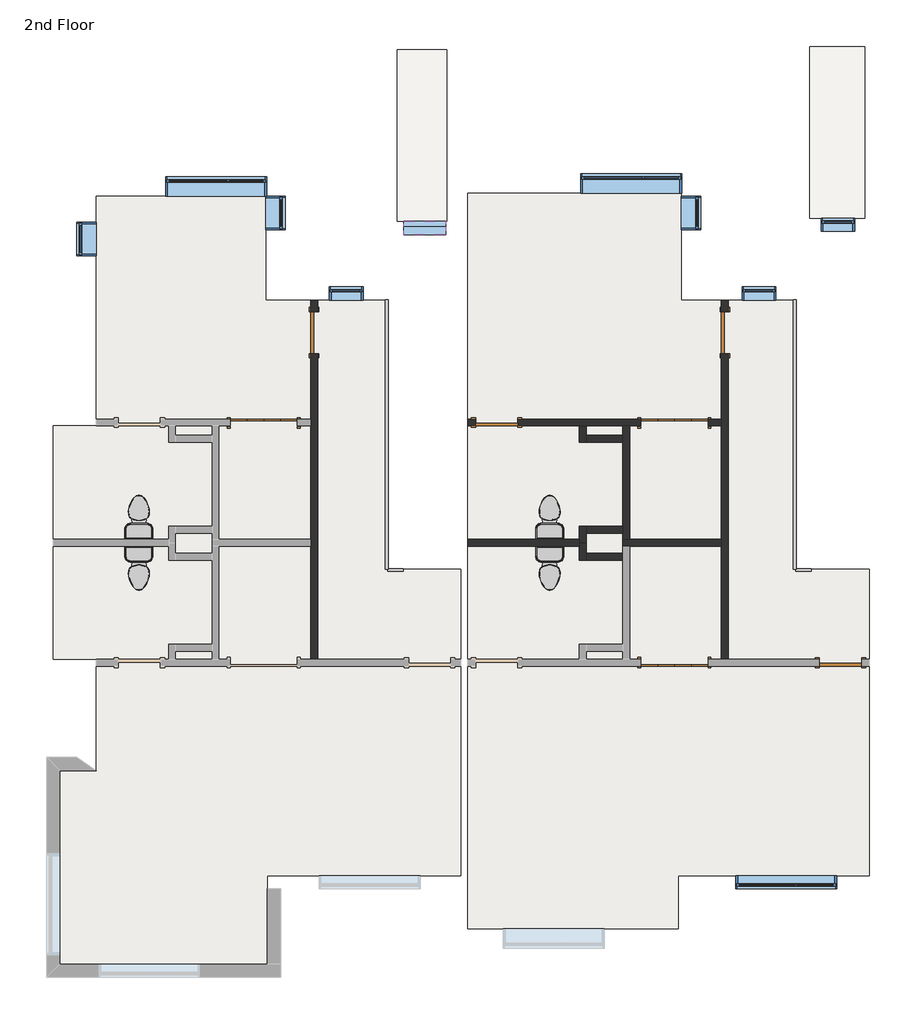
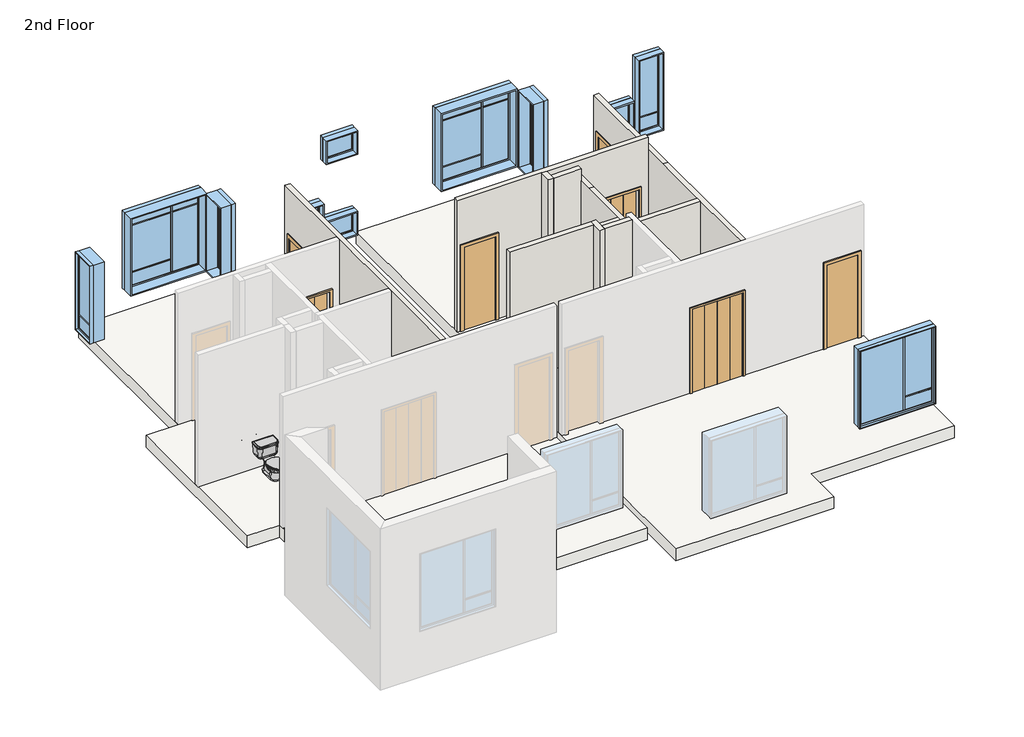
# One storey, part 2 of 2: 12 walls, 12 windows, 7 doors, 4 flow terminals, 2 railings, 2 roofs, 2 slabs.
"""IFC4 building model written with IfcOpenShell, lengths in millimetres."""

from ifc_helpers import new_model, si_unit, frame, origin, place, context, project, spatial, polyline, outline, extrude, faceted_brep, transform, mapped, element, save
from components import bifold_4_panel_87549022, bifold_4_panel_c9060b8c, door_f8acb57e, door_702a1063, toilet_domestic_3d_toilet_domestic_3d_3687f172, toilet_domestic_3d_toilet_domestic_3d_183bbd19, toilet_domestic_3d_toilet_domestic_3d_d5d88465, toilet_domestic_3d_toilet_domestic_3d_5530cc89, floor_railing_1_846517ea, floor_railing_1_7126c992, condo_apartment_window1_condo_apartment_window1_2f492663, condo_apartment_window2_condo_apartment_window2_cbcd33dc, condo_apartment_window3_condo_apartment_window3_4697ba99, condo_apartment_window3_condo_apartment_window3_b97e7785, condo_apartment_window3_condo_apartment_window3_e6ba8bfb, condo_apartment_window5_condo_apartment_window5_b48a20a4

model = new_model("IFC4")

# Units and contexts
model_context = context("Model", 3, world=origin())
ifc_project = project(units=[si_unit("LENGTHUNIT", "METRE", prefix="MILLI")], contexts=[model_context])

# Site, building, storey
site = spatial("IfcSite", under=ifc_project)
building = spatial("IfcBuilding", under=site)
storey = spatial("IfcBuildingStorey", under=building, Name="2nd Floor", Elevation=3352.8)

# Doors
placement = place(None, origin())
bifold_4_panel_shape = bifold_4_panel_87549022(model_context)
element("IfcDoor", 1, ObjectType="Bifold - 4 panel : 48\" x  84\"", at=placement, inside=storey, context=model_context, shape_type="MappedRepresentation", body=[
    mapped(bifold_4_panel_shape, transform((18.6480231, 54569.10012, 3352.8), x_axis=(1.0, 0.0, 0.0), y_axis=(0.0, 1.0, 0.0), z_axis=(0.0, 0.0, 1.0))),
])
element("IfcDoor", 2, ObjectType="Bifold - 4 panel : 48\" x  84\"", at=placement, inside=storey, context=model_context, shape_type="MappedRepresentation", body=[
    mapped(bifold_4_panel_shape, transform((-7422.1019769, 54569.10012, 3352.8), x_axis=(1.0, 0.0, 0.0), y_axis=(0.0, 1.0, 0.0), z_axis=(0.0, 0.0, 1.0))),
])
bifold_4_panel_2_shape = bifold_4_panel_c9060b8c(model_context)
element("IfcDoor", 3, ObjectType="Bifold - 4 panel : 48\" x  84\"", at=placement, inside=storey, context=model_context, shape_type="MappedRepresentation", body=[
    mapped(bifold_4_panel_2_shape, transform((18.6480231, 50216.974008, 3352.8), x_axis=(1.0, 0.0, 0.0), y_axis=(0.0, 1.0, 0.0), z_axis=(0.0, 0.0, 1.0))),
])
door_shape = door_f8acb57e(model_context)
element("IfcDoor", 4, ObjectType="Single-Flush : 30\" x 84\"", at=placement, inside=storey, context=model_context, shape_type="MappedRepresentation", body=[
    mapped(door_shape, transform((-3203.0622339, 54569.10012, 3352.8), x_axis=(-1.0, 0.0, 0.0), y_axis=(0.0, -1.0, 0.0), z_axis=(0.0, 0.0, 1.0))),
])
element("IfcDoor", 5, ObjectType="Single-Flush : 30\" x 84\"", at=placement, inside=storey, context=model_context, shape_type="MappedRepresentation", body=[
    mapped(door_shape, transform((933.0480231, 56197.736508, 3352.8), x_axis=(0.0, 1.0, 0.0), y_axis=(-1.0, 0.0, 0.0), z_axis=(0.0, 0.0, 1.0))),
])
element("IfcDoor", 6, ObjectType="Single-Flush : 30\" x 84\"", at=placement, inside=storey, context=model_context, shape_type="MappedRepresentation", body=[
    mapped(door_shape, transform((-6507.7019769, 56197.736508, 3352.8), x_axis=(0.0, 1.0, 0.0), y_axis=(-1.0, 0.0, 0.0), z_axis=(0.0, 0.0, 1.0))),
])
door_2_shape = door_702a1063(model_context)
element("IfcDoor", 7, ObjectType="Single-Flush : 30\" x 84\"", at=placement, inside=storey, context=model_context, shape_type="MappedRepresentation", body=[
    mapped(door_2_shape, transform((3026.6980231, 50216.974008, 3352.8), x_axis=(1.0, 0.0, 0.0), y_axis=(0.0, 1.0, 0.0), z_axis=(0.0, 0.0, 1.0))),
])

# Flow terminals
toilet_domestic_3d_toilet_domestic_3d_shape = toilet_domestic_3d_toilet_domestic_3d_3687f172(model_context)
toilet_domestic_3d_toilet_domestic_3d_2_shape = toilet_domestic_3d_toilet_domestic_3d_183bbd19(model_context)
element("IfcFlowTerminal", 8, ObjectType="Toilet-Domestic-3D : Toilet-Domestic-3D", at=placement, inside=storey, context=model_context, shape_type="MappedRepresentation", body=[
    mapped(toilet_domestic_3d_toilet_domestic_3d_shape, transform((-2241.2271793, 52949.2330913, 3352.8), x_axis=(-1.0, 0.0, 0.0), y_axis=(0.0, -1.0, 0.0), z_axis=(0.0, 0.0, 1.0))),
    mapped(toilet_domestic_3d_toilet_domestic_3d_2_shape, transform((-2241.2271793, 52949.2330913, 3352.8), x_axis=(-1.0, 0.0, 0.0), y_axis=(0.0, -1.0, 0.0), z_axis=(0.0, 0.0, 1.0))),
])
element("IfcFlowTerminal", 9, ObjectType="Toilet-Domestic-3D : Toilet-Domestic-3D", at=placement, inside=storey, context=model_context, shape_type="MappedRepresentation", body=[
    mapped(toilet_domestic_3d_toilet_domestic_3d_shape, transform((-9681.9771793, 52949.2330913, 3352.8), x_axis=(-1.0, 0.0, 0.0), y_axis=(0.0, -1.0, 0.0), z_axis=(0.0, 0.0, 1.0))),
    mapped(toilet_domestic_3d_toilet_domestic_3d_2_shape, transform((-9681.9771793, 52949.2330913, 3352.8), x_axis=(-1.0, 0.0, 0.0), y_axis=(0.0, -1.0, 0.0), z_axis=(0.0, 0.0, 1.0))),
])
toilet_domestic_3d_toilet_domestic_3d_3_shape = toilet_domestic_3d_toilet_domestic_3d_d5d88465(model_context)
toilet_domestic_3d_toilet_domestic_3d_4_shape = toilet_domestic_3d_toilet_domestic_3d_5530cc89(model_context)
element("IfcFlowTerminal", 10, ObjectType="Toilet-Domestic-3D : Toilet-Domestic-3D", at=placement, inside=storey, context=model_context, shape_type="MappedRepresentation", body=[
    mapped(toilet_domestic_3d_toilet_domestic_3d_3_shape, transform((-2241.2271793, 51836.8410366, 3352.8), x_axis=(-1.0, 0.0, 0.0), y_axis=(0.0, -1.0, 0.0), z_axis=(0.0, 0.0, 1.0))),
    mapped(toilet_domestic_3d_toilet_domestic_3d_4_shape, transform((-2241.2271793, 51836.8410366, 3352.8), x_axis=(-1.0, 0.0, 0.0), y_axis=(0.0, -1.0, 0.0), z_axis=(0.0, 0.0, 1.0))),
])
element("IfcFlowTerminal", 11, ObjectType="Toilet-Domestic-3D : Toilet-Domestic-3D", at=placement, inside=storey, context=model_context, shape_type="MappedRepresentation", body=[
    mapped(toilet_domestic_3d_toilet_domestic_3d_3_shape, transform((-9681.9771793, 51836.8410366, 3352.8), x_axis=(-1.0, 0.0, 0.0), y_axis=(0.0, -1.0, 0.0), z_axis=(0.0, 0.0, 1.0))),
    mapped(toilet_domestic_3d_toilet_domestic_3d_4_shape, transform((-9681.9771793, 51836.8410366, 3352.8), x_axis=(-1.0, 0.0, 0.0), y_axis=(0.0, -1.0, 0.0), z_axis=(0.0, 0.0, 1.0))),
])

# Railings
floor_railing_1_shape = floor_railing_1_846517ea(model_context)
element("IfcRailing", 12, ObjectType="Floor Railing 1", at=placement, inside=storey, context=model_context, shape_type="MappedRepresentation", body=[
    mapped(floor_railing_1_shape, transform((0.0, 0.0, 0.0), x_axis=(1.0, 0.0, 0.0), y_axis=(0.0, 1.0, 0.0), z_axis=(0.0, 0.0, 1.0))),
])
floor_railing_1_2_shape = floor_railing_1_7126c992(model_context)
element("IfcRailing", 13, ObjectType="Floor Railing 1", at=placement, inside=storey, context=model_context, shape_type="MappedRepresentation", body=[
    mapped(floor_railing_1_2_shape, transform((0.0, 0.0, 0.0), x_axis=(1.0, 0.0, 0.0), y_axis=(0.0, 1.0, 0.0), z_axis=(0.0, 0.0, 1.0))),
])

# Roofs
element("IfcRoof", 14, ObjectType="Generic - 12\"", at=placement, inside=storey, context=model_context, shape_type="SweptSolid", body=[
    extrude(outline(polyline([(58271.9489967, 1368.1790671), (61380.924008, 368.1790671), (61380.924008, 48.0), (58271.9489967, 1048.0), (58271.9489967, 1368.1790671)])), frame((2471.5505599, 0.0, 0.0), z_axis=(1.0, 0.0, 0.0), x_axis=(0.0, 1.0, 0.0)), (0.0, 0.0, 1.0), 997.0458242),
])
element("IfcRoof", 15, ObjectType="Generic - 12\"", at=placement, inside=storey, context=model_context, shape_type="SweptSolid", body=[
    extrude(outline(polyline([(58214.7989967, 1368.1790671), (61323.774008, 368.1790671), (61323.774008, 48.0), (58214.7989967, 1048.0), (58214.7989967, 1368.1790671)])), frame((-5003.7911158, 0.0, 0.0), z_axis=(1.0, 0.0, 0.0), x_axis=(0.0, 1.0, 0.0)), (0.0, 0.0, 1.0), 900.616382),
])

# Slabs
element("IfcSlab", 16, ObjectType="Generic - 12\"", at=placement, inside=storey, context=model_context, shape_type="SweptSolid", body=[
    extrude(outline(polyline([(-7386.2622339, 58665.924008), (-7386.2622339, 56788.286508), (-5175.7911158, 56788.286508), (-5175.7911158, 51911.486508), (-3850.7622339, 51911.486508), (-3850.7622339, 46362.5755538), (-7355.0497339, 46362.5755538), (-7355.0497339, 44758.736508), (-11113.8372339, 44758.736508), (-11113.8372339, 48264.349008), (-10457.0497339, 48264.349008), (-10457.0497339, 50278.886508), (-11231.3122339, 50278.886508), (-11231.3122339, 54507.18762), (-10457.0497339, 54507.18762), (-10457.0497339, 58665.924008), (-7386.2622339, 58665.924008)])), frame((0.0, 0.0, 3048.0), z_axis=(0.0, 0.0, 1.0), x_axis=(1.0, 0.0, 0.0)), (0.0, 0.0, 1.0), 304.8),
])
element("IfcSlab", 17, ObjectType="Generic - 12\"", at=placement, inside=storey, context=model_context, shape_type="SweptSolid", body=[
    extrude(outline(polyline([(146.8252661, 58723.449008), (146.8252661, 56788.286508), (2214.4316411, 56788.286508), (2214.4316411, 51911.486508), (3547.3980231, 51911.486508), (3547.3980231, 46362.5755538), (85.7002661, 46362.5755538), (85.7002661, 45398.061508), (-3726.9372339, 45398.061508), (-3726.9372339, 58723.449008), (146.8252661, 58723.449008)])), frame((0.0, 0.0, 3048.0), z_axis=(0.0, 0.0, 1.0), x_axis=(1.0, 0.0, 0.0)), (0.0, 0.0, 1.0), 304.8),
])

# Walls
element("IfcWall", 18, ObjectType="Interior - 4 7/8\" Partition (1-hr)", at=placement, inside=storey, context=model_context, shape_type="Brep", body=[
    faceted_brep([(871.1355231, 56788.286508, 3352.8), (871.1355231, 56578.736508, 3352.8), (871.1355231, 56578.736508, 5486.4), (871.1355231, 55816.736508, 5486.4), (871.1355231, 55816.736508, 3352.8), (871.1355231, 54631.01262, 3352.8), (871.1355231, 54507.18762, 3352.8), (871.1355231, 52454.949564, 3352.8), (871.1355231, 52331.124564, 3352.8), (871.1355231, 50278.886508, 3352.8), (871.1355231, 50278.886508, 6400.8), (871.1355231, 52331.124564, 6400.8), (871.1355231, 52454.949564, 6400.8), (871.1355231, 53901.561508, 6400.8), (871.1355231, 56788.286508, 6400.8), (994.9605231, 56578.736508, 5486.4), (994.9605231, 56578.736508, 3352.8), (994.9605231, 56788.286508, 3352.8), (994.9605231, 56788.286508, 6400.8), (994.9605231, 53901.561508, 6400.8), (994.9605231, 50278.886508, 6400.8), (994.9605231, 50278.886508, 3352.8), (994.9605231, 55816.736508, 3352.8), (994.9605231, 55816.736508, 5486.4)], [[[0, 1, 2, 3, 4, 5, 6, 7, 8, 9, 10, 11, 12, 13, 14]], [[15, 16, 17, 18, 19, 20, 21, 22, 23]], [[17, 16, 1, 0]], [[22, 21, 9, 8, 7, 6, 5, 4]], [[0, 14, 18, 17]], [[10, 9, 21, 20]], [[14, 13, 19, 18]], [[13, 12, 11, 10, 20, 19]], [[2, 1, 16, 15]], [[3, 2, 15, 23]], [[4, 3, 23, 22]]]),
])
element("IfcWall", 19, ObjectType="Interior - 4 7/8\" Partition (1-hr)", at=placement, inside=storey, context=model_context, shape_type="Brep", body=[
    faceted_brep([(871.1355231, 52454.949564, 3352.8), (-791.8394769, 52454.949564, 3352.8), (-915.6644769, 52454.949564, 3352.8), (-915.6644769, 52454.949564, 6400.8), (-791.8394769, 52454.949564, 6400.8), (871.1355231, 52454.949564, 6400.8), (871.1355231, 52331.124564, 3352.8), (871.1355231, 52331.124564, 6400.8), (-915.6644769, 52331.124564, 6400.8), (-915.6644769, 52331.124564, 3352.8), (-791.8394769, 52331.124564, 3352.8)], [[[0, 1, 2, 3, 4, 5]], [[6, 7, 8, 9, 10]], [[2, 1, 0, 6, 10, 9]], [[3, 2, 9, 8]], [[0, 5, 7, 6]], [[5, 4, 3, 8, 7]]]),
])
element("IfcWall", 20, ObjectType="Interior - 4 7/8\" Partition (1-hr)", at=placement, inside=storey, context=model_context, shape_type="Brep", body=[
    faceted_brep([(-3726.9372339, 54631.01262, 6705.6), (871.1355231, 54631.01262, 6705.6), (871.1355231, 54631.01262, 3352.8), (628.2480231, 54631.01262, 3352.8), (628.2480231, 54631.01262, 5486.4), (-590.9519769, 54631.01262, 5486.4), (-590.9519769, 54631.01262, 3352.8), (-2822.0622339, 54631.01262, 3352.8), (-2822.0622339, 54631.01262, 5486.4), (-3584.0622339, 54631.01262, 5486.4), (-3584.0622339, 54631.01262, 3352.8), (-3726.9372339, 54631.01262, 3352.8), (871.1355231, 54507.18762, 6705.6), (-1579.2394769, 54507.18762, 6705.6), (-1703.0644769, 54507.18762, 6705.6), (-3726.9372339, 54507.18762, 6705.6), (-3726.9372339, 54507.18762, 3352.8), (-3584.0622339, 54507.18762, 3352.8), (-3584.0622339, 54507.18762, 5486.4), (-2822.0622339, 54507.18762, 5486.4), (-2822.0622339, 54507.18762, 3352.8), (-1703.0644769, 54507.18762, 3352.8), (-1579.2394769, 54507.18762, 3352.8), (-915.6644769, 54507.18762, 3352.8), (-791.8394769, 54507.18762, 3352.8), (-590.9519769, 54507.18762, 3352.8), (-590.9519769, 54507.18762, 5486.4), (628.2480231, 54507.18762, 5486.4), (628.2480231, 54507.18762, 3352.8), (871.1355231, 54507.18762, 3352.8)], [[[0, 1, 2, 3, 4, 5, 6, 7, 8, 9, 10, 11]], [[12, 13, 14, 15, 16, 17, 18, 19, 20, 21, 22, 23, 24, 25, 26, 27, 28, 29]], [[2, 29, 28, 3]], [[16, 11, 10, 17]], [[6, 25, 24, 23, 22, 21, 20, 7]], [[1, 0, 15, 14, 13, 12]], [[2, 1, 12, 29]], [[0, 11, 16, 15]], [[27, 4, 3, 28]], [[4, 27, 26, 5]], [[5, 26, 25, 6]], [[9, 18, 17, 10]], [[18, 9, 8, 19]], [[19, 8, 7, 20]]]),
])
element("IfcWall", 21, ObjectType="Interior - 4 7/8\" Partition (1-hr)", at=placement, inside=storey, context=model_context, shape_type="Brep", body=[
    faceted_brep([(-791.8394769, 52454.949564, 3352.8), (-791.8394769, 54507.18762, 3352.8), (-791.8394769, 54507.18762, 6400.8), (-791.8394769, 53901.561508, 6400.8), (-791.8394769, 52454.949564, 6400.8), (-915.6644769, 52454.949564, 3352.8), (-915.6644769, 52454.949564, 6400.8), (-915.6644769, 52565.71262, 6400.8), (-915.6644769, 52689.53762, 6400.8), (-915.6644769, 53901.561508, 6400.8), (-915.6644769, 54507.18762, 6400.8), (-915.6644769, 54507.18762, 3352.8), (-915.6644769, 54337.36262, 3352.8), (-915.6644769, 54213.53762, 3352.8), (-915.6644769, 52689.53762, 3352.8), (-915.6644769, 52565.71262, 3352.8)], [[[0, 1, 2, 3, 4]], [[5, 6, 7, 8, 9, 10, 11, 12, 13, 14, 15]], [[1, 0, 5, 15, 14, 13, 12, 11]], [[0, 4, 6, 5]], [[2, 1, 11, 10]], [[3, 2, 10, 9]], [[4, 3, 9, 8, 7, 6]]]),
])
element("IfcWall", 22, ObjectType="Interior - 4 7/8\" Partition (1-hr)", at=placement, inside=storey, context=model_context, shape_type="Brep", body=[
    faceted_brep([(-1703.0644769, 54507.18762, 3352.8), (-1703.0644769, 54213.53762, 3352.8), (-1703.0644769, 54213.53762, 6705.6), (-1703.0644769, 54507.18762, 6705.6), (-1579.2394769, 54507.18762, 3352.8), (-1579.2394769, 54507.18762, 6705.6), (-1579.2394769, 54337.36262, 6705.6), (-1579.2394769, 54213.53762, 6705.6), (-1579.2394769, 54213.53762, 3352.8), (-1579.2394769, 54337.36262, 3352.8)], [[[0, 1, 2, 3]], [[4, 5, 6, 7, 8, 9]], [[1, 0, 4, 9, 8]], [[3, 2, 7, 6, 5]], [[2, 1, 8, 7]], [[0, 3, 5, 4]]]),
])
element("IfcWall", 23, ObjectType="Interior - 4 7/8\" Partition (1-hr)", at=placement, inside=storey, context=model_context, shape_type="SweptSolid", body=[
    extrude(outline(polyline([(-915.6644769, 54213.53762), (-1579.2394769, 54213.53762), (-1579.2394769, 54337.36262), (-915.6644769, 54337.36262), (-915.6644769, 54213.53762)])), frame((0.0, 0.0, 3352.8), z_axis=(0.0, 0.0, 1.0), x_axis=(1.0, 0.0, 0.0)), (0.0, 0.0, 1.0), 3352.8),
])
element("IfcWall", 24, ObjectType="Interior - 4 7/8\" Partition (1-hr)", at=placement, inside=storey, context=model_context, shape_type="Brep", body=[
    faceted_brep([(-1579.2394769, 52393.037064, 3352.8), (-1579.2394769, 52565.71262, 3352.8), (-1579.2394769, 52689.53762, 3352.8), (-1579.2394769, 52689.53762, 6400.8), (-1579.2394769, 52565.71262, 6400.8), (-1579.2394769, 52454.949564, 6400.8), (-1579.2394769, 52393.037064, 6400.8), (-1703.0644769, 52393.037064, 3352.8), (-1703.0644769, 52393.037064, 6400.8), (-1703.0644769, 52454.949564, 6400.8), (-1703.0644769, 52689.53762, 6400.8), (-1703.0644769, 52689.53762, 3352.8), (-1703.0644769, 52454.949564, 3352.8)], [[[0, 1, 2, 3, 4, 5, 6]], [[7, 8, 9, 10, 11, 12]], [[2, 1, 0, 7, 12, 11]], [[0, 6, 8, 7]], [[3, 2, 11, 10]], [[6, 5, 4, 3, 10, 9, 8]]]),
])
element("IfcWall", 25, ObjectType="Interior - 4 7/8\" Partition (1-hr)", at=placement, inside=storey, context=model_context, shape_type="SweptSolid", body=[
    extrude(outline(polyline([(-915.6644769, 52565.71262), (-1579.2394769, 52565.71262), (-1579.2394769, 52689.53762), (-915.6644769, 52689.53762), (-915.6644769, 52565.71262)])), frame((0.0, 0.0, 3352.8), z_axis=(0.0, 0.0, 1.0), x_axis=(1.0, 0.0, 0.0)), (0.0, 0.0, 1.0), 3048.0),
])
element("IfcWall", 26, ObjectType="Interior - 4 7/8\" Partition (1-hr)", at=placement, inside=storey, context=model_context, shape_type="Brep", body=[
    faceted_brep([(-1703.0644769, 52393.037064, 3352.8), (-1703.0644769, 52331.124564, 3352.8), (-1703.0644769, 52075.949564, 3352.8), (-1703.0644769, 52075.949564, 6705.6), (-1703.0644769, 52331.124564, 6705.6), (-1703.0644769, 52454.949564, 6705.6), (-1703.0644769, 52454.949564, 6400.8), (-1703.0644769, 52393.037064, 6400.8), (-1579.2394769, 52393.037064, 3352.8), (-1579.2394769, 52393.037064, 6400.8), (-1579.2394769, 52454.949564, 6400.8), (-1579.2394769, 52454.949564, 6705.6), (-1579.2394769, 52199.774564, 6705.6), (-1579.2394769, 52075.949564, 6705.6), (-1579.2394769, 52075.949564, 3352.8), (-1579.2394769, 52199.774564, 3352.8)], [[[0, 1, 2, 3, 4, 5, 6, 7]], [[8, 9, 10, 11, 12, 13, 14, 15]], [[2, 1, 0, 8, 15, 14]], [[5, 4, 3, 13, 12, 11]], [[3, 2, 14, 13]], [[0, 7, 9, 8]], [[6, 10, 9, 7]], [[6, 5, 11, 10]]]),
])
element("IfcWall", 27, ObjectType="Interior - 4 7/8\" Partition (1-hr)", at=placement, inside=storey, context=model_context, shape_type="SweptSolid", body=[
    extrude(outline(polyline([(-915.6644769, 52075.949564), (-1579.2394769, 52075.949564), (-1579.2394769, 52199.774564), (-915.6644769, 52199.774564), (-915.6644769, 52075.949564)])), frame((0.0, 0.0, 3352.8), z_axis=(0.0, 0.0, 1.0), x_axis=(1.0, 0.0, 0.0)), (0.0, 0.0, 1.0), 3352.8),
])
element("IfcWall", 28, ObjectType="Interior - 4 7/8\" Partition (1-hr)", at=placement, inside=storey, context=model_context, shape_type="Brep", body=[
    faceted_brep([(-1703.0644769, 52454.949564, 6705.6), (-1703.0644769, 52454.949564, 6400.8), (-1703.0644769, 52454.949564, 3352.8), (-3726.9372339, 52454.949564, 3352.8), (-3726.9372339, 52454.949564, 6705.6), (-1703.0644769, 52331.124564, 3352.8), (-1703.0644769, 52331.124564, 6705.6), (-3726.9372339, 52331.124564, 6705.6), (-3726.9372339, 52331.124564, 3352.8), (-1703.0644769, 52393.037064, 3352.8)], [[[0, 1, 2, 3, 4]], [[5, 6, 7, 8]], [[3, 2, 9, 5, 8]], [[0, 4, 7, 6]], [[0, 6, 5, 9, 2, 1]], [[4, 3, 8, 7]]]),
])
element("IfcWall", 29, ObjectType="Interior - 4 7/8\" Partition (1-hr)", at=placement, inside=storey, context=model_context, shape_type="Brep", body=[
    faceted_brep([(-6569.6144769, 56788.286508, 3352.8), (-6569.6144769, 56578.736508, 3352.8), (-6569.6144769, 56578.736508, 5486.4), (-6569.6144769, 55816.736508, 5486.4), (-6569.6144769, 55816.736508, 3352.8), (-6569.6144769, 54631.01262, 3352.8), (-6569.6144769, 54507.18762, 3352.8), (-6569.6144769, 52454.949564, 3352.8), (-6569.6144769, 52331.124564, 3352.8), (-6569.6144769, 50278.886508, 3352.8), (-6569.6144769, 50278.886508, 6705.6), (-6569.6144769, 52331.124564, 6705.6), (-6569.6144769, 52454.949564, 6705.6), (-6569.6144769, 54507.18762, 6705.6), (-6569.6144769, 54631.01262, 6705.6), (-6569.6144769, 56788.286508, 6705.6), (-6445.7894769, 56578.736508, 5486.4), (-6445.7894769, 56578.736508, 3352.8), (-6445.7894769, 56788.286508, 3352.8), (-6445.7894769, 56788.286508, 6705.6), (-6445.7894769, 50278.886508, 6705.6), (-6445.7894769, 50278.886508, 3352.8), (-6445.7894769, 55816.736508, 3352.8), (-6445.7894769, 55816.736508, 5486.4)], [[[0, 1, 2, 3, 4, 5, 6, 7, 8, 9, 10, 11, 12, 13, 14, 15]], [[16, 17, 18, 19, 20, 21, 22, 23]], [[18, 17, 1, 0]], [[22, 21, 9, 8, 7, 6, 5, 4]], [[15, 14, 13, 12, 11, 10, 20, 19]], [[10, 9, 21, 20]], [[0, 15, 19, 18]], [[2, 1, 17, 16]], [[3, 2, 16, 23]], [[4, 3, 23, 22]]]),
])

# Windows
condo_apartment_window1_condo_apartment_window1_shape = condo_apartment_window1_condo_apartment_window1_2f492663(model_context)
element("IfcWindow", 30, ObjectType="Condo - Apartment Window1 : Condo - Apartment Window1", at=placement, inside=storey, context=model_context, shape_type="MappedRepresentation", body=[
    mapped(condo_apartment_window1_condo_apartment_window1_shape, transform((2006.4480231, 46241.9255538, 3365.5), x_axis=(-1.0, 0.0, 0.0), y_axis=(0.0, -1.0, 0.0), z_axis=(0.0, 0.0, 1.0))),
])
condo_apartment_window2_condo_apartment_window2_shape = condo_apartment_window2_condo_apartment_window2_cbcd33dc(model_context)
element("IfcWindow", 31, ObjectType="Condo - Apartment Window2 : Condo - Apartment Window2", at=placement, inside=storey, context=model_context, shape_type="MappedRepresentation", body=[
    mapped(condo_apartment_window2_condo_apartment_window2_shape, transform((-8246.7622339, 58842.136508, 3060.7), x_axis=(1.0, 0.0, 0.0), y_axis=(0.0, 1.0, 0.0), z_axis=(0.0, 0.0, 1.0))),
])
element("IfcWindow", 32, ObjectType="Condo - Apartment Window2 : Condo - Apartment Window2", at=placement, inside=storey, context=model_context, shape_type="MappedRepresentation", body=[
    mapped(condo_apartment_window2_condo_apartment_window2_shape, transform((-728.2622339, 58899.661508, 3060.7), x_axis=(1.0, 0.0, 0.0), y_axis=(0.0, 1.0, 0.0), z_axis=(0.0, 0.0, 1.0))),
])
condo_apartment_window3_condo_apartment_window3_shape = condo_apartment_window3_condo_apartment_window3_4697ba99(model_context)
element("IfcWindow", 33, ObjectType="Condo - Apartment Window3 : Condo - Apartment Window3", at=placement, inside=storey, context=model_context, shape_type="MappedRepresentation", body=[
    mapped(condo_apartment_window3_condo_apartment_window3_shape, transform((-10633.2622339, 57931.286508, 3365.5), x_axis=(0.0, 1.0, 0.0), y_axis=(-1.0, 0.0, 0.0), z_axis=(0.0, 0.0, 1.0))),
])
element("IfcWindow", 34, ObjectType="Condo - Apartment Window3 : Condo - Apartment Window3", at=placement, inside=storey, context=model_context, shape_type="MappedRepresentation", body=[
    mapped(condo_apartment_window3_condo_apartment_window3_shape, transform((-7210.0497339, 58328.161508, 3365.5), x_axis=(0.0, -1.0, 0.0), y_axis=(1.0, 0.0, 0.0), z_axis=(0.0, 0.0, 1.0))),
])
condo_apartment_window3_condo_apartment_window3_2_shape = condo_apartment_window3_condo_apartment_window3_b97e7785(model_context)
element("IfcWindow", 35, ObjectType="Condo - Apartment Window3 : Condo - Apartment Window3", at=placement, inside=storey, context=model_context, shape_type="MappedRepresentation", body=[
    mapped(condo_apartment_window3_condo_apartment_window3_2_shape, transform((1589.6088842, 56908.936508, 3619.5), x_axis=(1.0, 0.0, 0.0), y_axis=(0.0, 1.0, 0.0), z_axis=(0.0, 0.0, 1.0))),
])
element("IfcWindow", 36, ObjectType="Condo - Apartment Window3 : Condo - Apartment Window3", at=placement, inside=storey, context=model_context, shape_type="MappedRepresentation", body=[
    mapped(condo_apartment_window3_condo_apartment_window3_2_shape, transform((-5888.5786158, 56908.936508, 3619.5), x_axis=(1.0, 0.0, 0.0), y_axis=(0.0, 1.0, 0.0), z_axis=(0.0, 0.0, 1.0))),
])
element("IfcWindow", 37, ObjectType="Condo - Apartment Window3 : Condo - Apartment Window3", at=placement, inside=storey, context=model_context, shape_type="MappedRepresentation", body=[
    mapped(condo_apartment_window3_condo_apartment_window3_2_shape, transform((-5888.5786158, 56908.936508, 1358.9), x_axis=(1.0, 0.0, 0.0), y_axis=(0.0, 1.0, 0.0), z_axis=(0.0, 0.0, 1.0))),
])
element("IfcWindow", 38, ObjectType="Condo - Apartment Window3 : Condo - Apartment Window3", at=placement, inside=storey, context=model_context, shape_type="MappedRepresentation", body=[
    mapped(condo_apartment_window3_condo_apartment_window3_2_shape, transform((3018.0507974, 58151.2989967, 3619.5), x_axis=(1.0, 0.0, 0.0), y_axis=(0.0, 1.0, 0.0), z_axis=(0.0, 0.0, 1.0))),
])
condo_apartment_window3_condo_apartment_window3_3_shape = condo_apartment_window3_condo_apartment_window3_e6ba8bfb(model_context)
element("IfcWindow", 39, ObjectType="Condo - Apartment Window3 : Condo - Apartment Window3", at=placement, inside=storey, context=model_context, shape_type="MappedRepresentation", body=[
    mapped(condo_apartment_window3_condo_apartment_window3_3_shape, transform((323.0377661, 58404.361508, 3365.5), x_axis=(0.0, 1.0, 0.0), y_axis=(-1.0, 0.0, 0.0), z_axis=(0.0, 0.0, 1.0))),
])
condo_apartment_window5_condo_apartment_window5_shape = condo_apartment_window5_condo_apartment_window5_b48a20a4(model_context)
element("IfcWindow", 40, ObjectType="Condo - Apartment Window5 : Condo - Apartment Window5", at=placement, inside=storey, context=model_context, shape_type="MappedRepresentation", body=[
    mapped(condo_apartment_window5_condo_apartment_window5_shape, transform((-4468.2997339, 58094.1489967, 2349.5), x_axis=(1.0, 0.0, 0.0), y_axis=(0.0, 1.0, 0.0), z_axis=(0.0, 0.0, 1.0))),
])
element("IfcWindow", 41, ObjectType="Condo - Apartment Window5 : Condo - Apartment Window5", at=placement, inside=storey, context=model_context, shape_type="MappedRepresentation", body=[
    mapped(condo_apartment_window5_condo_apartment_window5_shape, transform((-4468.2997339, 58094.1489967, 4406.9), x_axis=(1.0, 0.0, 0.0), y_axis=(0.0, 1.0, 0.0), z_axis=(0.0, 0.0, 1.0))),
])

save(model, "model.ifc")
